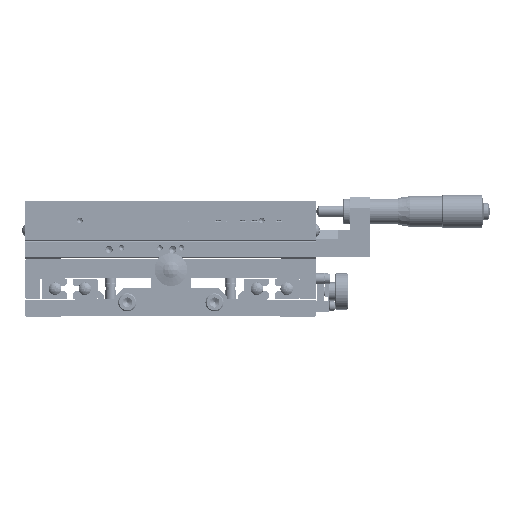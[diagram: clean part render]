
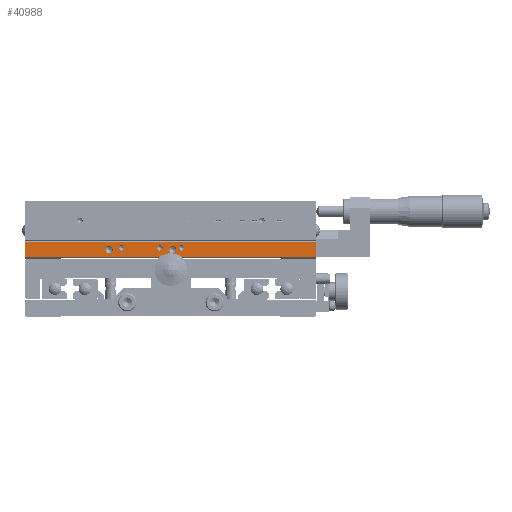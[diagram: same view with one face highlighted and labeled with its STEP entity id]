
A CAD part, front view. The second image highlights one B-rep face of the part: STEP entity #40988.
In plain terms, the highlighted planar face has unit normal (0, -1, 0).
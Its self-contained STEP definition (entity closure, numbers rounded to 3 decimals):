
#2220 = CARTESIAN_POINT ( 'NONE',  ( 3., -80., 27. ) ) ;
#2221 = DIRECTION ( 'NONE',  ( 1., 0., 0. ) ) ;
#2222 = DIRECTION ( 'NONE',  ( 0., -1., 0. ) ) ;
#2223 = CARTESIAN_POINT ( 'NONE',  ( 1., -80., 27. ) ) ;
#2224 = AXIS2_PLACEMENT_3D ( 'NONE', #2223, #2222, #2221 ) ;
#2226 = CIRCLE ( 'NONE', #2224, 2. ) ;
#2490 = CARTESIAN_POINT ( 'NONE',  ( -1., -80., 27. ) ) ;
#3158 = DIRECTION ( 'NONE',  ( 1., 0., 0. ) ) ;
#3159 = DIRECTION ( 'NONE',  ( 0., -1., 0. ) ) ;
#3161 = CARTESIAN_POINT ( 'NONE',  ( -34., -80., 27. ) ) ;
#3162 = AXIS2_PLACEMENT_3D ( 'NONE', #3161, #3159, #3158 ) ;
#3163 = CIRCLE ( 'NONE', #3162, 2. ) ;
#3395 = CARTESIAN_POINT ( 'NONE',  ( -36., -80., 27. ) ) ;
#3546 = CARTESIAN_POINT ( 'NONE',  ( -32., -80., 27. ) ) ;
#4516 = CARTESIAN_POINT ( 'NONE',  ( 4.5, -80., 28. ) ) ;
#4558 = CARTESIAN_POINT ( 'NONE',  ( 7.5, -80., 28. ) ) ;
#4559 = DIRECTION ( 'NONE',  ( 1., 0., 0. ) ) ;
#4560 = DIRECTION ( 'NONE',  ( 0., -1., 0. ) ) ;
#4562 = AXIS2_PLACEMENT_3D ( 'NONE', #4573, #4560, #4559 ) ;
#4563 = CIRCLE ( 'NONE', #4562, 1.5 ) ;
#4573 = CARTESIAN_POINT ( 'NONE',  ( 6., -80., 28. ) ) ;
#4671 = CARTESIAN_POINT ( 'NONE',  ( -28.5, -80., 28. ) ) ;
#4764 = DIRECTION ( 'NONE',  ( 1., 0., 0. ) ) ;
#4765 = DIRECTION ( 'NONE',  ( 0., -1., 0. ) ) ;
#4766 = CARTESIAN_POINT ( 'NONE',  ( -27., -80., 28. ) ) ;
#4767 = AXIS2_PLACEMENT_3D ( 'NONE', #4766, #4765, #4764 ) ;
#4768 = CIRCLE ( 'NONE', #4767, 1.5 ) ;
#5281 = CARTESIAN_POINT ( 'NONE',  ( -25.5, -80., 28. ) ) ;
#10098 = CARTESIAN_POINT ( 'NONE',  ( 80., -80., 22.8 ) ) ;
#10101 = DIRECTION ( 'NONE',  ( 0., 0., -1. ) ) ;
#10103 = VECTOR ( 'NONE', #10101, 1000. ) ;
#10105 = CARTESIAN_POINT ( 'NONE',  ( 80., -80., 31. ) ) ;
#10106 = LINE ( 'NONE', #10105, #10103 ) ;
#10107 = CARTESIAN_POINT ( 'NONE',  ( 80., -80., 31. ) ) ;
#12690 = CARTESIAN_POINT ( 'NONE',  ( -80., -80., 31. ) ) ;
#13001 = DIRECTION ( 'NONE',  ( 1., 0., 0. ) ) ;
#13004 = DIRECTION ( 'NONE',  ( 0., -1., 0. ) ) ;
#13006 = CARTESIAN_POINT ( 'NONE',  ( -6., -80., 28. ) ) ;
#13008 = AXIS2_PLACEMENT_3D ( 'NONE', #13006, #13004, #13001 ) ;
#13010 = CIRCLE ( 'NONE', #13008, 1.5 ) ;
#13013 = CARTESIAN_POINT ( 'NONE',  ( -4.5, -80., 28. ) ) ;
#13037 = CARTESIAN_POINT ( 'NONE',  ( -7.5, -80., 28. ) ) ;
#15073 = DIRECTION ( 'NONE',  ( 1., 0., 0. ) ) ;
#15074 = VECTOR ( 'NONE', #15073, 1000. ) ;
#15075 = CARTESIAN_POINT ( 'NONE',  ( -80., -80., 31. ) ) ;
#15076 = LINE ( 'NONE', #15075, #15074 ) ;
#15658 = FACE_OUTER_BOUND ( 'NONE', #41948, .T. ) ;
#15659 = FACE_BOUND ( 'NONE', #41636, .T. ) ;
#15661 = FACE_BOUND ( 'NONE', #41632, .T. ) ;
#15663 = FACE_BOUND ( 'NONE', #41717, .T. ) ;
#15664 = FACE_BOUND ( 'NONE', #41774, .T. ) ;
#15666 = FACE_BOUND ( 'NONE', #41650, .T. ) ;
#15775 = DIRECTION ( 'NONE',  ( 1., 0., 0. ) ) ;
#15777 = DIRECTION ( 'NONE',  ( 0., -1., 0. ) ) ;
#15780 = CARTESIAN_POINT ( 'NONE',  ( -80., -80., 31. ) ) ;
#15782 = AXIS2_PLACEMENT_3D ( 'NONE', #15780, #15777, #15775 ) ;
#15785 = PLANE ( 'NONE',  #15782 ) ;
#16174 = DIRECTION ( 'NONE',  ( 1., 0., 0. ) ) ;
#16175 = DIRECTION ( 'NONE',  ( 0., -1., 0. ) ) ;
#16176 = CARTESIAN_POINT ( 'NONE',  ( -27., -80., 28. ) ) ;
#16177 = AXIS2_PLACEMENT_3D ( 'NONE', #16176, #16175, #16174 ) ;
#16178 = CIRCLE ( 'NONE', #16177, 1.5 ) ;
#16181 = DIRECTION ( 'NONE',  ( 1., 0., 0. ) ) ;
#16182 = DIRECTION ( 'NONE',  ( 0., -1., 0. ) ) ;
#16183 = CARTESIAN_POINT ( 'NONE',  ( -6., -80., 28. ) ) ;
#16184 = AXIS2_PLACEMENT_3D ( 'NONE', #16183, #16182, #16181 ) ;
#16185 = CIRCLE ( 'NONE', #16184, 1.5 ) ;
#16248 = DIRECTION ( 'NONE',  ( 1., 0., 0. ) ) ;
#16249 = DIRECTION ( 'NONE',  ( 0., -1., 0. ) ) ;
#16250 = CARTESIAN_POINT ( 'NONE',  ( 1., -80., 27. ) ) ;
#16251 = AXIS2_PLACEMENT_3D ( 'NONE', #16250, #16249, #16248 ) ;
#16252 = CIRCLE ( 'NONE', #16251, 2. ) ;
#16357 = DIRECTION ( 'NONE',  ( 1., 0., 0. ) ) ;
#16358 = DIRECTION ( 'NONE',  ( 0., -1., 0. ) ) ;
#16359 = CARTESIAN_POINT ( 'NONE',  ( 6., -80., 28. ) ) ;
#16360 = AXIS2_PLACEMENT_3D ( 'NONE', #16359, #16358, #16357 ) ;
#16361 = CIRCLE ( 'NONE', #16360, 1.5 ) ;
#16427 = DIRECTION ( 'NONE',  ( 1., 0., 0. ) ) ;
#16428 = VECTOR ( 'NONE', #16427, 1000. ) ;
#16429 = CARTESIAN_POINT ( 'NONE',  ( -80., -80., 22.8 ) ) ;
#16430 = LINE ( 'NONE', #16429, #16428 ) ;
#16431 = CARTESIAN_POINT ( 'NONE',  ( -80., -80., 22.8 ) ) ;
#16432 = DIRECTION ( 'NONE',  ( 0., 0., -1. ) ) ;
#16433 = VECTOR ( 'NONE', #16432, 1000. ) ;
#16435 = CARTESIAN_POINT ( 'NONE',  ( -80., -80., 31. ) ) ;
#16436 = LINE ( 'NONE', #16435, #16433 ) ;
#16472 = DIRECTION ( 'NONE',  ( 1., 0., 0. ) ) ;
#16473 = DIRECTION ( 'NONE',  ( 0., -1., 0. ) ) ;
#16474 = CARTESIAN_POINT ( 'NONE',  ( -34., -80., 27. ) ) ;
#16475 = AXIS2_PLACEMENT_3D ( 'NONE', #16474, #16473, #16472 ) ;
#16476 = CIRCLE ( 'NONE', #16475, 2. ) ;
#38278 = VERTEX_POINT ( 'NONE', #10107 ) ;
#38280 = EDGE_CURVE ( 'NONE', #38278, #38281, #10106, .T. ) ;
#38281 = VERTEX_POINT ( 'NONE', #10098 ) ;
#39901 = VERTEX_POINT ( 'NONE', #12690 ) ;
#40779 = EDGE_CURVE ( 'NONE', #39901, #38278, #15076, .T. ) ;
#40988 = ADVANCED_FACE ( 'NONE', ( #15666, #15664, #15663, #15661, #15659, #15658 ), #15785, .T. ) ;
#41632 = EDGE_LOOP ( 'NONE', ( #41633, #41635 ) ) ;
#41633 = ORIENTED_EDGE ( 'NONE', *, *, #41634, .F. ) ;
#41634 = EDGE_CURVE ( 'NONE', #65686, #65681, #16185, .T. ) ;
#41635 = ORIENTED_EDGE ( 'NONE', *, *, #65690, .F. ) ;
#41636 = EDGE_LOOP ( 'NONE', ( #41637, #41947 ) ) ;
#41637 = ORIENTED_EDGE ( 'NONE', *, *, #41638, .F. ) ;
#41638 = EDGE_CURVE ( 'NONE', #65563, #65513, #16178, .T. ) ;
#41639 = EDGE_CURVE ( 'NONE', #64630, #64770, #16252, .T. ) ;
#41650 = EDGE_LOOP ( 'NONE', ( #41904, #41773 ) ) ;
#41716 = ORIENTED_EDGE ( 'NONE', *, *, #65053, .F. ) ;
#41717 = EDGE_LOOP ( 'NONE', ( #41718, #41720 ) ) ;
#41718 = ORIENTED_EDGE ( 'NONE', *, *, #41719, .F. ) ;
#41719 = EDGE_CURVE ( 'NONE', #65473, #65451, #16361, .T. ) ;
#41720 = ORIENTED_EDGE ( 'NONE', *, *, #65471, .F. ) ;
#41752 = EDGE_CURVE ( 'NONE', #39901, #41753, #16436, .T. ) ;
#41753 = VERTEX_POINT ( 'NONE', #16431 ) ;
#41754 = ORIENTED_EDGE ( 'NONE', *, *, #41755, .T. ) ;
#41755 = EDGE_CURVE ( 'NONE', #41753, #38281, #16430, .T. ) ;
#41773 = ORIENTED_EDGE ( 'NONE', *, *, #64629, .F. ) ;
#41774 = EDGE_LOOP ( 'NONE', ( #41775, #41716 ) ) ;
#41775 = ORIENTED_EDGE ( 'NONE', *, *, #41776, .F. ) ;
#41776 = EDGE_CURVE ( 'NONE', #65139, #65106, #16476, .T. ) ;
#41904 = ORIENTED_EDGE ( 'NONE', *, *, #41639, .F. ) ;
#41947 = ORIENTED_EDGE ( 'NONE', *, *, #65522, .F. ) ;
#41948 = EDGE_LOOP ( 'NONE', ( #41949, #41950, #41951, #41754 ) ) ;
#41949 = ORIENTED_EDGE ( 'NONE', *, *, #38280, .F. ) ;
#41950 = ORIENTED_EDGE ( 'NONE', *, *, #40779, .F. ) ;
#41951 = ORIENTED_EDGE ( 'NONE', *, *, #41752, .T. ) ;
#64629 = EDGE_CURVE ( 'NONE', #64770, #64630, #2226, .T. ) ;
#64630 = VERTEX_POINT ( 'NONE', #2220 ) ;
#64770 = VERTEX_POINT ( 'NONE', #2490 ) ;
#65053 = EDGE_CURVE ( 'NONE', #65106, #65139, #3163, .T. ) ;
#65106 = VERTEX_POINT ( 'NONE', #3395 ) ;
#65139 = VERTEX_POINT ( 'NONE', #3546 ) ;
#65451 = VERTEX_POINT ( 'NONE', #4516 ) ;
#65471 = EDGE_CURVE ( 'NONE', #65451, #65473, #4563, .T. ) ;
#65473 = VERTEX_POINT ( 'NONE', #4558 ) ;
#65513 = VERTEX_POINT ( 'NONE', #4671 ) ;
#65522 = EDGE_CURVE ( 'NONE', #65513, #65563, #4768, .T. ) ;
#65563 = VERTEX_POINT ( 'NONE', #5281 ) ;
#65681 = VERTEX_POINT ( 'NONE', #13037 ) ;
#65686 = VERTEX_POINT ( 'NONE', #13013 ) ;
#65690 = EDGE_CURVE ( 'NONE', #65681, #65686, #13010, .T. ) ;
